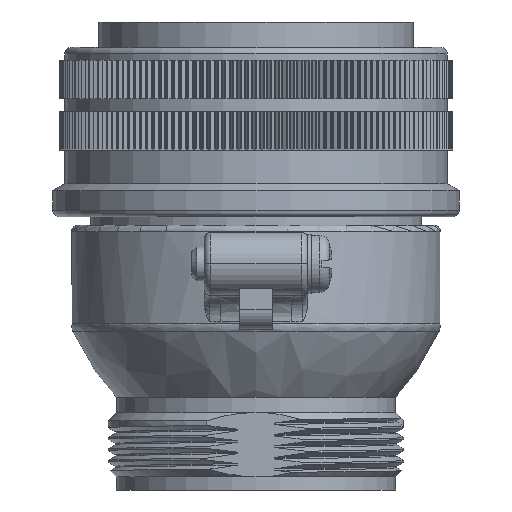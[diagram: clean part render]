
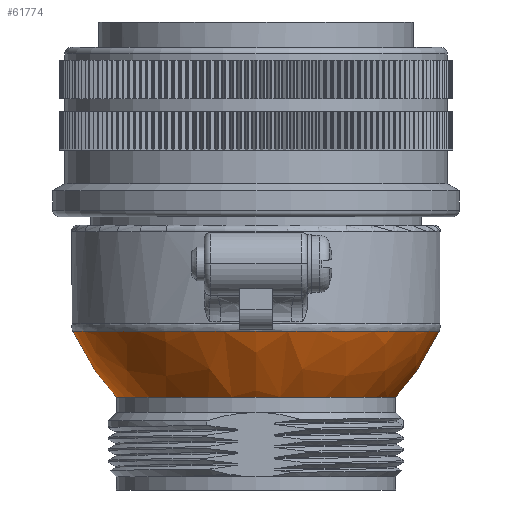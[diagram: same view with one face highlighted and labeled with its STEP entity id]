
A CAD part, front view. The second image highlights one B-rep face of the part: STEP entity #61774.
In plain terms, the highlighted spherical face has radius 24.25 mm.
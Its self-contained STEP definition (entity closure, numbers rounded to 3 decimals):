
#4080 = AXIS2_PLACEMENT_3D ( 'NONE', #38522, #173283, #144833 ) ;
#8728 = FACE_OUTER_BOUND ( 'NONE', #130027, .T. ) ;
#11493 = AXIS2_PLACEMENT_3D ( 'NONE', #135971, #28984, #96432 ) ;
#12295 = CIRCLE ( 'NONE', #4080, 17.15 ) ;
#22262 = DIRECTION ( 'NONE',  ( -1., 0., 0. ) ) ;
#26211 = VERTEX_POINT ( 'NONE', #83210 ) ;
#28984 = DIRECTION ( 'NONE',  ( 0., 0., 1. ) ) ;
#35863 = DIRECTION ( 'NONE',  ( 0., 1., 0. ) ) ;
#38522 = CARTESIAN_POINT ( 'NONE',  ( 0., 0., -46.085 ) ) ;
#53847 = VERTEX_POINT ( 'NONE', #92190 ) ;
#57024 = ORIENTED_EDGE ( 'NONE', *, *, #77924, .F. ) ;
#61774 = ADVANCED_FACE ( 'NONE', ( #8728, #116681 ), #141849, .T. ) ;
#76069 = CARTESIAN_POINT ( 'NONE',  ( 0., 0., -28.94 ) ) ;
#77924 = EDGE_CURVE ( 'NONE', #53847, #53847, #155949, .T. ) ;
#83210 = CARTESIAN_POINT ( 'NONE',  ( 0., 17.15, -46.085 ) ) ;
#88031 = ORIENTED_EDGE ( 'NONE', *, *, #114896, .T. ) ;
#89356 = AXIS2_PLACEMENT_3D ( 'NONE', #76069, #22262, #35863 ) ;
#92190 = CARTESIAN_POINT ( 'NONE',  ( 0., 22.488, -38.014 ) ) ;
#96432 = DIRECTION ( 'NONE',  ( 0., 1., 0. ) ) ;
#108264 = EDGE_LOOP ( 'NONE', ( #88031 ) ) ;
#114896 = EDGE_CURVE ( 'NONE', #26211, #26211, #12295, .T. ) ;
#116681 = FACE_OUTER_BOUND ( 'NONE', #108264, .T. ) ;
#130027 = EDGE_LOOP ( 'NONE', ( #57024 ) ) ;
#135971 = CARTESIAN_POINT ( 'NONE',  ( 0., 0., -38.014 ) ) ;
#141849 = SPHERICAL_SURFACE ( 'NONE', #89356, 24.25 ) ;
#144833 = DIRECTION ( 'NONE',  ( 0., 1., 0. ) ) ;
#155949 = CIRCLE ( 'NONE', #11493, 22.488 ) ;
#173283 = DIRECTION ( 'NONE',  ( 0., 0., 1. ) ) ;
